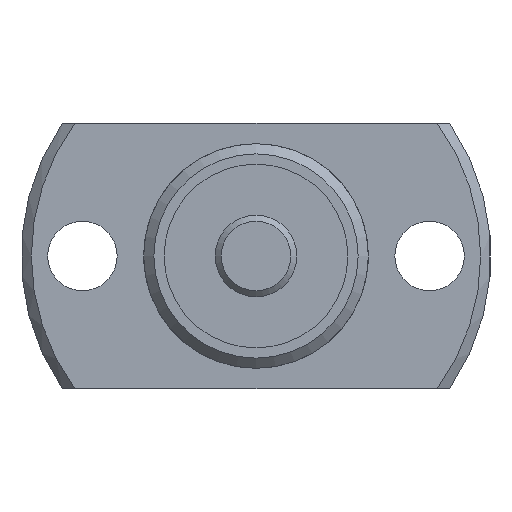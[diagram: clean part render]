
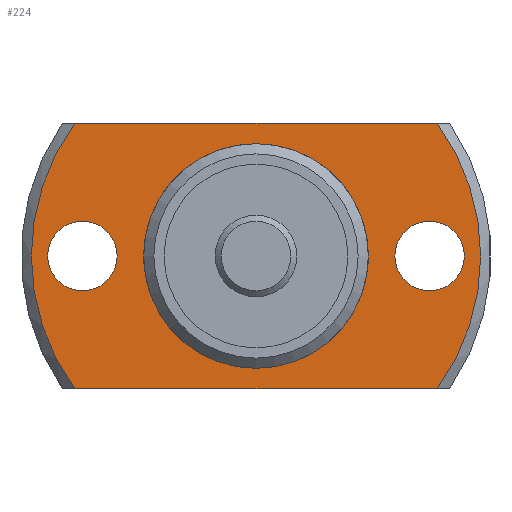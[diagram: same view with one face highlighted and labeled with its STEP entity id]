
A CAD part, left-side view. The second image highlights one B-rep face of the part: STEP entity #224.
In plain terms, the highlighted planar face has unit normal (-1, 0, 0).
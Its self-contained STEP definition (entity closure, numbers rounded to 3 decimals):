
#224 = ADVANCED_FACE( '', ( #378, #379, #380, #381 ), #382, .F. );
#378 = FACE_OUTER_BOUND( '', #556, .T. );
#379 = FACE_BOUND( '', #557, .T. );
#380 = FACE_BOUND( '', #558, .T. );
#381 = FACE_BOUND( '', #559, .T. );
#382 = PLANE( '', #560 );
#556 = EDGE_LOOP( '', ( #982, #983, #984, #985 ) );
#557 = EDGE_LOOP( '', ( #986 ) );
#558 = EDGE_LOOP( '', ( #987 ) );
#559 = EDGE_LOOP( '', ( #988 ) );
#560 = AXIS2_PLACEMENT_3D( '', #989, #990, #991 );
#982 = ORIENTED_EDGE( '', *, *, #1128, .F. );
#983 = ORIENTED_EDGE( '', *, *, #1227, .T. );
#984 = ORIENTED_EDGE( '', *, *, #1221, .F. );
#985 = ORIENTED_EDGE( '', *, *, #1122, .T. );
#986 = ORIENTED_EDGE( '', *, *, #1228, .T. );
#987 = ORIENTED_EDGE( '', *, *, #1229, .T. );
#988 = ORIENTED_EDGE( '', *, *, #1223, .T. );
#989 = CARTESIAN_POINT( '', ( 13., 5.3, 0. ) );
#990 = DIRECTION( '', ( 1., 0., 0. ) );
#991 = DIRECTION( '', ( 0., 0., -1. ) );
#1122 = EDGE_CURVE( '', #1288, #1286, #1289, .T. );
#1128 = EDGE_CURVE( '', #1299, #1286, #1300, .T. );
#1221 = EDGE_CURVE( '', #1288, #1461, #1462, .T. );
#1223 = EDGE_CURVE( '', #1464, #1464, #1465, .T. );
#1227 = EDGE_CURVE( '', #1299, #1461, #1469, .T. );
#1228 = EDGE_CURVE( '', #1470, #1470, #1471, .T. );
#1229 = EDGE_CURVE( '', #1472, #1472, #1473, .T. );
#1286 = VERTEX_POINT( '', #1543 );
#1288 = VERTEX_POINT( '', #1548 );
#1289 = LINE( '', #1549, #1550 );
#1299 = VERTEX_POINT( '', #1571 );
#1300 = CIRCLE( '', #1572, 11. );
#1461 = VERTEX_POINT( '', #1836 );
#1462 = CIRCLE( '', #1837, 11. );
#1464 = VERTEX_POINT( '', #1842 );
#1465 = CIRCLE( '', #1843, 5.3 );
#1469 = LINE( '', #1847, #1848 );
#1470 = VERTEX_POINT( '', #1849 );
#1471 = CIRCLE( '', #1850, 1.7 );
#1472 = VERTEX_POINT( '', #1851 );
#1473 = CIRCLE( '', #1852, 1.7 );
#1543 = CARTESIAN_POINT( '', ( 13., 8.874, 6.5 ) );
#1548 = CARTESIAN_POINT( '', ( 13., -8.874, 6.5 ) );
#1549 = CARTESIAN_POINT( '', ( 13., 5.3, 6.5 ) );
#1550 = VECTOR( '', #1928, 1000. );
#1571 = CARTESIAN_POINT( '', ( 13., 8.874, -6.5 ) );
#1572 = AXIS2_PLACEMENT_3D( '', #1931, #1932, #1933 );
#1836 = CARTESIAN_POINT( '', ( 13., -8.874, -6.5 ) );
#1837 = AXIS2_PLACEMENT_3D( '', #2091, #2092, #2093 );
#1842 = CARTESIAN_POINT( '', ( 13., 0., -5.3 ) );
#1843 = AXIS2_PLACEMENT_3D( '', #2094, #2095, #2096 );
#1847 = CARTESIAN_POINT( '', ( 13., 5.3, -6.5 ) );
#1848 = VECTOR( '', #2106, 1000. );
#1849 = CARTESIAN_POINT( '', ( 13., 8.5, -1.7 ) );
#1850 = AXIS2_PLACEMENT_3D( '', #2107, #2108, #2109 );
#1851 = CARTESIAN_POINT( '', ( 13., -8.5, -1.7 ) );
#1852 = AXIS2_PLACEMENT_3D( '', #2110, #2111, #2112 );
#1928 = DIRECTION( '', ( 0., 1., 0. ) );
#1931 = CARTESIAN_POINT( '', ( 13., 0., 0. ) );
#1932 = DIRECTION( '', ( 1., 0., 0. ) );
#1933 = DIRECTION( '', ( 0., 0., -1. ) );
#2091 = CARTESIAN_POINT( '', ( 13., 0., 0. ) );
#2092 = DIRECTION( '', ( 1., 0., 0. ) );
#2093 = DIRECTION( '', ( 0., 0., -1. ) );
#2094 = CARTESIAN_POINT( '', ( 13., 0., 0. ) );
#2095 = DIRECTION( '', ( 1., 0., 0. ) );
#2096 = DIRECTION( '', ( 0., 0., -1. ) );
#2106 = DIRECTION( '', ( 0., -1., 0. ) );
#2107 = CARTESIAN_POINT( '', ( 13., 8.5, 0. ) );
#2108 = DIRECTION( '', ( 1., 0., 0. ) );
#2109 = DIRECTION( '', ( 0., 0., -1. ) );
#2110 = CARTESIAN_POINT( '', ( 13., -8.5, 0. ) );
#2111 = DIRECTION( '', ( 1., 0., 0. ) );
#2112 = DIRECTION( '', ( 0., 0., -1. ) );
